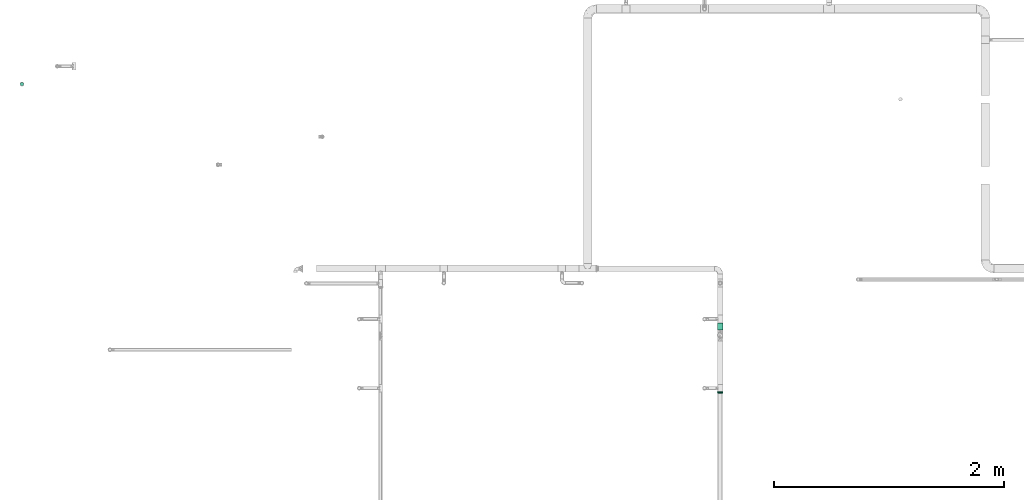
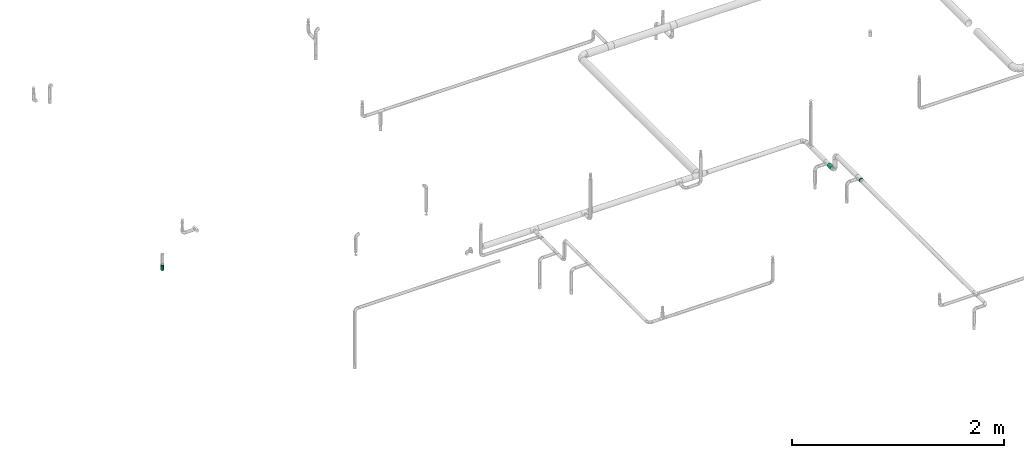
# One storey, part 65 of 157: 2 flow fittings, 1 flow segment, 1 flow terminal.
"""IFC2X3 building model written with IfcOpenShell, lengths in millimetres."""

from ifc_helpers import new_model, entity, si_unit, converted_unit, derived_unit, direction, frame, origin_with_axes, origin_2d_with_axis, place, context, subcontext, project, spatial, hollow_circle, extrude, open_shell, surface_model, source, transform, mapped, type_object, element, save


model = new_model("IFC2X3")

# Units and contexts
model_context = context("Model", 3, precision=0.01, world=frame((0.0, 4.29681676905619e-09, 0.0)), true_north=direction((4.01073788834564e-13, 1.0)))
plan_context = context("Plan", 3, precision=0.01, world=frame((0.0, 4.29681676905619e-09, 0.0)), true_north=direction((4.01073788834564e-13, 1.0)))
body_context = subcontext(model_context, "Body", "Model", "MODEL_VIEW")
ifc_project = project(units=[converted_unit("PLANEANGLEUNIT", "DEGREE", entity("IfcPositiveLengthMeasure", 0.0174532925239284), si_unit("PLANEANGLEUNIT", "RADIAN"), dimensions=[0, 0, 0, 0, 0, 0, 0]), si_unit("AREAUNIT", "SQUARE_METRE"), si_unit("LENGTHUNIT", "METRE", prefix="MILLI"), si_unit("MASSUNIT", "GRAM", prefix="KILO"), si_unit("POWERUNIT", "WATT"), si_unit("PRESSUREUNIT", "PASCAL"), si_unit("FORCEUNIT", "NEWTON", prefix="KILO"), si_unit("ELECTRICCURRENTUNIT", "AMPERE"), si_unit("THERMODYNAMICTEMPERATUREUNIT", "DEGREE_CELSIUS"), si_unit("TIMEUNIT", "SECOND"), si_unit("VOLUMEUNIT", "CUBIC_METRE"), derived_unit("LINEARVELOCITYUNIT", [(si_unit("LENGTHUNIT", "METRE"), 1), (si_unit("TIMEUNIT", "SECOND"), -1)]), derived_unit("VOLUMETRICFLOWRATEUNIT", [(si_unit("VOLUMEUNIT", "CUBIC_METRE"), 1), (si_unit("TIMEUNIT", "SECOND"), -1)]), derived_unit("THERMALTRANSMITTANCEUNIT", [(si_unit("POWERUNIT", "WATT"), 1), (si_unit("THERMODYNAMICTEMPERATUREUNIT", "KELVIN"), -1), (si_unit("AREAUNIT", "SQUARE_METRE"), -1)])], contexts=[model_context, plan_context])

# Site, building, storey
site_placement = place(None, frame((0.0, -4.29681676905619e-09, 0.0), z_axis=(0.0, 0.0, 1.0), x_axis=(1.0, 0.0, 0.0)))
site = spatial("IfcSite", under=ifc_project, at=site_placement, CompositionType="ELEMENT")
building_placement = place(site_placement, frame((0.0, 4.29681676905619e-09, 0.0), z_axis=(0.0, 0.0, 1.0), x_axis=(1.0, 0.0, 0.0)))
building = spatial("IfcBuilding", under=site, at=building_placement, Name="mc-building", CompositionType="ELEMENT")
storey_placement = place(building_placement, frame((0.0, 0.0, 204000.0), z_axis=(0.0, 0.0, 1.0), x_axis=(1.0, 0.0, 0.0)))
storey = spatial("IfcBuildingStorey", under=building, at=storey_placement, Name="Nivå D", CompositionType="ELEMENT", Elevation=204000.0)

# Flow fittings
pipe_fitting_type = type_object("IfcPipeFittingType", Name="magi_pipe_fe_reducer_centric_short_NOR", PredefinedType="TRANSITION")
shared_shape_1 = source(origin_with_axes(), body_context, "Body", "SurfaceModel", [
    surface_model("IfcShellBasedSurfaceModel", [(-2.0, -7.56604, -7.56604), (-2.0, -10.33541, -2.76936), (-2.0, -5.35, -9.26647), (-2.0, 5.35, -9.26647), (-2.0, 10.33541, -2.76936), (-2.0, 7.56604, -7.56604), (12.4, 11.9501, 11.9501), (12.4, 0.0, 16.9), (12.4, 11.9501, -11.9501), (12.4, 16.9, 0.0), (0.0, -10.7, 0.0), (0.0, -5.35, 9.26647), (0.0, -5.35, -9.26647), (0.0, 10.7, 0.0), (12.4, 15.66253, -2.98753), (12.4, 8.96258, -13.18758), (0.0, 6.6875, -6.94985), (12.4, -15.66253, -2.98753), (12.4, -16.9, 0.0), (12.4, 5.97505, -14.42505), (0.0, 5.35, -9.26647), (12.4, 14.42505, -5.97505), (0.0, 8.025, -4.63324), (0.0, 9.3625, -2.31662), (0.0, -9.3625, -2.31662), (0.0, -8.025, -4.63324), (12.4, -14.42505, -5.97505), (12.4, 13.18758, -8.96258), (12.4, -13.18758, -8.96258), (12.4, -11.9501, -11.9501), (0.0, -6.6875, -6.94985), (12.4, -8.96258, -13.18758), (12.4, -5.97505, -14.42505), (12.4, -15.66253, 2.98753), (12.4, -8.96258, 13.18758), (0.0, -6.6875, 6.94985), (12.4, -11.9501, 11.9501), (12.4, 15.66253, 2.98753), (12.4, -5.97505, 14.42505), (12.4, -14.42505, 5.97505), (0.0, -8.025, 4.63324), (0.0, -9.3625, 2.31662), (0.0, 9.3625, 2.31662), (0.0, 8.025, 4.63324), (12.4, 14.42505, 5.97505), (12.4, -13.18758, 8.96258), (12.4, 13.18758, 8.96258), (0.0, 6.6875, 6.94985), (12.4, 8.96258, 13.18758), (0.0, 5.35, 9.26647), (12.4, 5.97505, 14.42505), (14.4, 4.37404, -16.32415), (14.4, 8.45, -14.63583), (14.4, 11.9501, -11.9501), (14.4, -8.45, -14.63583), (14.4, 16.32415, -4.37404), (14.4, 16.32415, 4.37404), (14.4, 14.63583, -8.45), (14.4, 0.0, -16.9), (14.4, -4.37404, -16.32415), (14.4, -11.9501, -11.9501), (14.4, -16.32415, -4.37404), (14.4, -14.63583, -8.45), (14.4, -16.32415, 4.37404), (14.4, 16.9, 0.0), (14.4, 14.63583, 8.45), (14.4, 11.9501, 11.9501), (14.4, 4.37404, 16.32415), (14.4, 8.45, 14.63583), (14.4, 0.0, 16.9), (14.4, -14.63583, 8.45), (14.4, -16.9, 0.0), (14.4, -8.45, 14.63583), (14.4, -11.9501, 11.9501), (14.4, -4.37404, 16.32415), (12.4, 4.37404, 16.32415), (12.4, -14.63583, 8.45), (12.4, 16.32415, 4.37404), (12.4, 8.45, 14.63583), (12.4, 14.63583, 8.45), (12.4, -8.45, 14.63583), (12.4, -4.37404, 16.32415), (12.4, -16.32415, 4.37404), (12.4, -16.32415, -4.37404), (12.4, -8.45, -14.63583), (12.4, 16.32415, -4.37404), (12.4, 14.63583, -8.45), (12.4, 8.45, -14.63583), (12.4, 4.37404, -16.32415), (12.4, 0.0, -16.9), (12.4, -14.63583, -8.45), (12.4, -4.37404, -16.32415), (-2.0, 2.76936, 10.33541), (-2.0, 0.0, 10.7), (-2.0, 5.35, 9.26647), (-2.0, 7.56604, 7.56604), (-2.0, 9.26647, 5.35), (-2.0, 10.33541, 2.76936), (-2.0, -10.33541, 2.76936), (-2.0, -2.76936, 10.33541), (-2.0, -7.56604, 7.56604), (-2.0, -5.35, 9.26647), (-2.0, -9.26647, 5.35), (-2.0, -10.7, 0.0), (-2.0, 9.26647, -5.35), (-2.0, 2.76936, -10.33541), (-2.0, -9.26647, -5.35), (-2.0, 0.0, -10.7), (-2.0, -2.76936, -10.33541), (-2.0, 10.7, 0.0), (0.0, 0.0, -10.7), (0.0, 2.76936, -10.33541), (0.0, 10.33541, -2.76936), (0.0, 7.56604, -7.56604), (0.0, -10.33541, -2.76936), (0.0, 9.26647, -5.35), (0.0, 0.0, 10.7), (0.0, -2.76936, -10.33541), (0.0, -7.56604, -7.56604), (0.0, -9.26647, -5.35), (0.0, 10.33541, 2.76936), (0.0, 9.26647, 5.35), (0.0, 7.56604, 7.56604), (0.0, 2.76936, 10.33541), (0.0, -7.56604, 7.56604), (0.0, -10.33541, 2.76936), (0.0, -9.26647, 5.35), (0.0, -2.76936, 10.33541), (0.0, 2.675, -9.26647), (0.0, -2.675, -9.26647), (12.4, 2.98753, -15.66253), (0.0, 0.0, -9.26647), (12.4, -2.98753, -15.66253), (0.0, -2.675, 9.26647), (0.0, 2.675, 9.26647), (12.4, -2.98753, 15.66253), (0.0, 0.0, 9.26647), (12.4, 2.98753, 15.66253)], [open_shell([[[0, 1, 2]], [[3, 4, 5]], [[6, 7, 8]], [[8, 9, 6]], [[10, 11, 12]], [[13, 9, 14]], [[15, 16, 8]], [[17, 18, 10]], [[15, 19, 20]], [[21, 22, 23]], [[24, 25, 26]], [[22, 21, 27]], [[28, 26, 25]], [[29, 30, 31]], [[12, 32, 31]], [[10, 18, 33]], [[34, 35, 36]], [[37, 9, 13]], [[34, 38, 11]], [[39, 40, 41]], [[42, 43, 44]], [[40, 39, 45]], [[46, 44, 43]], [[6, 47, 48]], [[49, 50, 48]], [[51, 52, 53]], [[54, 51, 53]], [[53, 55, 56]], [[55, 53, 57]], [[53, 56, 54]], [[58, 54, 59]], [[58, 51, 54]], [[60, 61, 62]], [[61, 60, 54]], [[54, 63, 61]], [[56, 55, 64]], [[56, 65, 66]], [[56, 66, 67]], [[67, 63, 54]], [[67, 66, 68]], [[63, 67, 69]], [[69, 70, 63]], [[71, 61, 63]], [[70, 72, 73]], [[70, 69, 72]], [[72, 69, 74]], [[54, 56, 67]], [[75, 76, 7]], [[77, 75, 78]], [[6, 79, 77]], [[6, 77, 78]], [[76, 75, 77]], [[80, 76, 36]], [[80, 81, 7]], [[7, 76, 80]], [[82, 76, 77]], [[82, 83, 18]], [[82, 77, 84]], [[77, 85, 8]], [[8, 85, 86]], [[8, 87, 88]], [[84, 77, 8]], [[88, 89, 8]], [[83, 29, 90]], [[29, 83, 84]], [[84, 89, 91]], [[83, 82, 84]], [[8, 89, 84]], [[85, 77, 9]], [[83, 61, 18]], [[90, 62, 83]], [[54, 29, 84]], [[90, 29, 60]], [[59, 84, 91]], [[83, 62, 61]], [[61, 71, 18]], [[59, 54, 84]], [[60, 29, 54]], [[60, 62, 90]], [[58, 59, 91]], [[91, 89, 58]], [[88, 51, 89]], [[87, 52, 88]], [[57, 8, 86]], [[87, 8, 53]], [[55, 86, 85]], [[87, 53, 52]], [[52, 51, 88]], [[64, 55, 85]], [[57, 86, 55]], [[57, 53, 8]], [[9, 64, 85]], [[89, 51, 58]], [[77, 56, 9]], [[79, 65, 77]], [[68, 6, 78]], [[79, 6, 66]], [[67, 78, 75]], [[77, 65, 56]], [[56, 64, 9]], [[67, 68, 78]], [[66, 6, 68]], [[66, 65, 79]], [[69, 67, 75]], [[75, 7, 69]], [[81, 74, 7]], [[80, 72, 81]], [[70, 36, 76]], [[80, 36, 73]], [[63, 76, 82]], [[80, 73, 72]], [[72, 74, 81]], [[71, 63, 82]], [[70, 76, 63]], [[70, 73, 36]], [[18, 71, 82]], [[7, 74, 69]], [[92, 1, 93]], [[94, 1, 92]], [[95, 96, 97]], [[95, 97, 94]], [[98, 93, 1]], [[99, 100, 101]], [[99, 93, 100]], [[100, 98, 102]], [[93, 98, 100]], [[98, 1, 103]], [[94, 97, 1]], [[1, 97, 4]], [[5, 4, 104]], [[4, 3, 1]], [[105, 1, 3]], [[1, 0, 106]], [[2, 107, 108]], [[2, 1, 105]], [[105, 107, 2]], [[4, 97, 109]], [[20, 110, 111]], [[112, 20, 113]], [[114, 20, 112]], [[112, 113, 115]], [[116, 114, 112]], [[110, 12, 117]], [[110, 20, 12]], [[118, 114, 119]], [[114, 118, 12]], [[20, 114, 12]], [[112, 13, 120]], [[120, 121, 122]], [[120, 122, 123]], [[116, 112, 123]], [[123, 122, 49]], [[116, 124, 114]], [[125, 124, 126]], [[10, 114, 125]], [[124, 127, 11]], [[125, 114, 124]], [[127, 124, 116]], [[123, 112, 120]], [[1, 114, 103]], [[106, 119, 1]], [[12, 0, 2]], [[106, 0, 118]], [[117, 2, 108]], [[1, 119, 114]], [[114, 10, 103]], [[117, 12, 2]], [[118, 0, 12]], [[118, 119, 106]], [[110, 117, 108]], [[108, 107, 110]], [[105, 111, 107]], [[3, 20, 105]], [[115, 5, 104]], [[3, 5, 113]], [[112, 104, 4]], [[3, 113, 20]], [[20, 111, 105]], [[13, 112, 4]], [[115, 104, 112]], [[115, 113, 5]], [[109, 13, 4]], [[107, 111, 110]], [[97, 120, 109]], [[96, 121, 97]], [[49, 95, 94]], [[96, 95, 122]], [[123, 94, 92]], [[97, 121, 120]], [[120, 13, 109]], [[123, 49, 94]], [[122, 95, 49]], [[122, 121, 96]], [[116, 123, 92]], [[92, 93, 116]], [[99, 127, 93]], [[101, 11, 99]], [[126, 100, 102]], [[101, 100, 124]], [[125, 102, 98]], [[101, 124, 11]], [[11, 127, 99]], [[10, 125, 98]], [[126, 102, 125]], [[126, 124, 100]], [[103, 10, 98]], [[93, 127, 116]], [[18, 7, 36]], [[18, 29, 8]], [[89, 8, 29]], [[18, 8, 7]], [[13, 11, 49]], [[13, 20, 12]], [[13, 12, 11]], [[24, 26, 17]], [[10, 24, 17]], [[16, 15, 20]], [[30, 12, 31]], [[23, 14, 21]], [[19, 128, 20]], [[27, 8, 16]], [[32, 12, 129]], [[30, 28, 25]], [[130, 131, 128]], [[129, 132, 32]], [[16, 22, 27]], [[13, 14, 23]], [[128, 19, 130]], [[130, 89, 131]], [[131, 132, 129]], [[89, 132, 131]], [[28, 30, 29]], [[42, 44, 37]], [[13, 42, 37]], [[35, 34, 11]], [[47, 49, 48]], [[41, 33, 39]], [[38, 133, 11]], [[45, 36, 35]], [[50, 49, 134]], [[47, 46, 43]], [[135, 136, 133]], [[134, 137, 50]], [[35, 40, 45]], [[10, 33, 41]], [[133, 38, 135]], [[135, 7, 136]], [[136, 137, 134]], [[7, 137, 136]], [[46, 47, 6]]])]),
])
flow_fitting_1_placement = place(storey_placement, frame((515569.8271, 415641.97188, 2396.95199999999), z_axis=(0.0, -1.0, 0.0), x_axis=(0.0, 0.0, 1.0)))
element("IfcFlowFitting", 1, at=flow_fitting_1_placement, inside=storey, type_object=pipe_fitting_type, Name="magi_pipe_fe_reducer_centric_short_NOR", context=body_context, shape_type="MappedRepresentation", body=[
    mapped(shared_shape_1, transform((0.0, 0.0, 0.0), scale=1.0)),
])
shared_shape_2 = source(origin_with_axes(), body_context, "Body", "SurfaceModel", [
    surface_model("IfcShellBasedSurfaceModel", [(8.0, 10.6, -18.35974), (8.0, 0.0, -21.2), (8.0, 5.48696, -20.47763), (8.0, 20.47763, -5.48696), (8.0, 14.99066, -14.99066), (8.0, -21.2, 0.0), (8.0, -14.99066, -14.99066), (8.0, 18.35974, -10.6), (8.0, -10.6, -18.35974), (8.0, -5.48696, -20.47763), (8.0, -18.35974, -10.6), (8.0, -20.47763, -5.48696), (8.0, -18.35974, 10.6), (8.0, 21.2, 0.0), (8.0, 20.47763, 5.48696), (8.0, 18.35974, 10.6), (8.0, 14.99066, 14.99066), (8.0, 0.0, 21.2), (8.0, 10.6, 18.35974), (8.0, 5.48696, 20.47763), (8.0, -14.99066, 14.99066), (8.0, -20.47763, 5.48696), (8.0, -5.48696, 20.47763), (8.0, -10.6, 18.35974), (6.0, 0.0, 21.2), (6.0, 5.48696, 20.47763), (6.0, 10.6, 18.35974), (6.0, 14.99066, 14.99066), (6.0, 18.35974, 10.6), (6.0, 20.47763, 5.48696), (6.0, -21.2, 0.0), (6.0, -14.99066, -14.99066), (6.0, -5.48696, 20.47763), (6.0, -14.99066, 14.99066), (6.0, -10.6, 18.35974), (6.0, -18.35974, 10.6), (6.0, -20.47763, 5.48696), (6.0, 20.47763, -5.48696), (6.0, 10.6, -18.35974), (6.0, 14.99066, -14.99066), (6.0, 18.35974, -10.6), (6.0, 5.48696, -20.47763), (6.0, 0.0, -21.2), (6.0, -18.35974, -10.6), (6.0, -20.47763, -5.48696), (6.0, -10.6, -18.35974), (6.0, -5.48696, -20.47763), (6.0, 21.2, 0.0), (-2.0, 0.0, 24.2), (-2.0, 6.26342, 23.37541), (-2.0, 12.1, 20.95781), (-2.0, 17.11198, 17.11198), (-2.0, 24.2, 0.0), (-2.0, 20.95781, 12.1), (-2.0, -23.37541, 6.26342), (-2.0, -17.11198, -17.11198), (-2.0, -6.26342, 23.37541), (-2.0, -17.11198, 17.11198), (-2.0, -12.1, 20.95781), (-2.0, -20.95781, 12.1), (-2.0, -24.2, 0.0), (-2.0, 23.37541, 6.26342), (-2.0, 23.37541, -6.26342), (-2.0, 6.26342, -23.37541), (-2.0, 17.11198, -17.11198), (-2.0, 20.95781, -12.1), (-2.0, 12.1, -20.95781), (-2.0, -23.37541, -6.26342), (-2.0, -20.95781, -12.1), (-2.0, -6.26342, -23.37541), (-2.0, -12.1, -20.95781), (-2.0, 0.0, -24.2), (0.0, 24.2, 0.0), (0.0, 6.26342, -23.37541), (0.0, 12.1, -20.95781), (0.0, 23.37541, -6.26342), (0.0, 17.11198, -17.11198), (0.0, 20.95781, -12.1), (0.0, -24.2, 0.0), (0.0, -12.1, -20.95781), (0.0, -6.26342, -23.37541), (0.0, 0.0, -24.2), (0.0, -17.11198, -17.11198), (0.0, -23.37541, -6.26342), (0.0, -20.95781, -12.1), (0.0, 20.95781, 12.1), (0.0, 17.11198, 17.11198), (0.0, 12.1, 20.95781), (0.0, 6.26342, 23.37541), (0.0, 0.0, 24.2), (0.0, -23.37541, 6.26342), (0.0, -17.11198, 17.11198), (0.0, -20.95781, 12.1), (0.0, -6.26342, 23.37541), (0.0, -12.1, 20.95781), (0.0, 23.37541, 6.26342), (6.0, -6.55116, 20.1624), (6.0, -17.15116, 12.46105), (6.0, 17.15116, 12.46105), (6.0, 6.55116, 20.1624), (6.0, -6.55116, -20.1624), (6.0, -17.15116, -12.46105), (6.0, 6.55116, -20.1624), (6.0, 17.15116, -12.46105), (0.0, 7.47821, 23.01557), (0.0, 19.57821, 14.2244), (0.0, -7.47821, 23.01557), (0.0, -19.57821, 14.2244), (0.0, 7.47821, -23.01557), (0.0, 19.57821, -14.2244), (0.0, -7.47821, -23.01557), (0.0, -19.57821, -14.2244), (6.0, 11.85116, -16.31172), (0.0, 13.52821, -18.61999), (0.0, 21.8891, -7.1122), (6.0, 19.17558, -6.23052), (0.0, -22.51537, -5.18476), (6.0, 0.0, -20.1624), (0.0, 0.0, -23.01557), (6.0, -19.17558, -6.23052), (0.0, -13.52821, -18.61999), (6.0, -11.85116, -16.31172), (0.0, -21.04679, -9.70458), (6.0, -11.85116, 16.31172), (0.0, -13.52821, 18.61999), (0.0, -21.8891, 7.1122), (6.0, -19.17558, 6.23052), (0.0, 22.51537, 5.18476), (6.0, 0.0, 20.1624), (0.0, 0.0, 23.01557), (6.0, 19.17558, 6.23052), (0.0, 13.52821, 18.61999), (6.0, 11.85116, 16.31172), (0.0, 21.04679, 9.70458)], [open_shell([[[0, 1, 2]], [[3, 0, 4]], [[5, 6, 0]], [[3, 4, 7]], [[3, 5, 0]], [[1, 8, 9]], [[1, 0, 8]], [[10, 5, 11]], [[8, 0, 6]], [[10, 6, 5]], [[12, 3, 13]], [[14, 15, 16]], [[14, 16, 17]], [[18, 19, 17]], [[18, 17, 16]], [[14, 17, 20]], [[5, 12, 21]], [[3, 12, 5]], [[20, 22, 23]], [[12, 14, 20]], [[17, 22, 20]], [[12, 13, 14]], [[24, 25, 26]], [[24, 26, 27]], [[27, 28, 29]], [[27, 29, 24]], [[30, 24, 31]], [[32, 33, 34]], [[32, 24, 33]], [[35, 30, 36]], [[33, 24, 35]], [[24, 30, 35]], [[24, 29, 31]], [[29, 37, 38]], [[39, 37, 40]], [[31, 29, 38]], [[38, 37, 39]], [[41, 42, 38]], [[30, 43, 44]], [[31, 43, 30]], [[45, 42, 46]], [[45, 31, 38]], [[42, 45, 38]], [[37, 29, 47]], [[44, 11, 30]], [[43, 10, 44]], [[8, 31, 45]], [[43, 31, 6]], [[9, 45, 46]], [[44, 10, 11]], [[11, 5, 30]], [[9, 8, 45]], [[6, 31, 8]], [[6, 10, 43]], [[1, 9, 46]], [[46, 42, 1]], [[41, 2, 42]], [[38, 0, 41]], [[7, 39, 40]], [[38, 39, 4]], [[3, 40, 37]], [[38, 4, 0]], [[0, 2, 41]], [[13, 3, 37]], [[7, 40, 3]], [[7, 4, 39]], [[47, 13, 37]], [[42, 2, 1]], [[29, 14, 47]], [[28, 15, 29]], [[18, 27, 26]], [[28, 27, 16]], [[19, 26, 25]], [[29, 15, 14]], [[14, 13, 47]], [[19, 18, 26]], [[16, 27, 18]], [[16, 15, 28]], [[17, 19, 25]], [[25, 24, 17]], [[32, 22, 24]], [[34, 23, 32]], [[12, 33, 35]], [[34, 33, 20]], [[21, 35, 36]], [[34, 20, 23]], [[23, 22, 32]], [[5, 21, 36]], [[12, 35, 21]], [[12, 20, 33]], [[30, 5, 36]], [[24, 22, 17]], [[48, 49, 50]], [[48, 50, 51]], [[52, 51, 53]], [[54, 48, 55]], [[48, 51, 55]], [[56, 57, 58]], [[56, 48, 57]], [[57, 54, 59]], [[48, 54, 57]], [[54, 55, 60]], [[52, 53, 61]], [[51, 62, 63]], [[64, 62, 65]], [[66, 63, 62]], [[66, 62, 64]], [[63, 55, 51]], [[67, 55, 68]], [[60, 55, 67]], [[63, 69, 70]], [[70, 55, 63]], [[69, 63, 71]], [[62, 51, 52]], [[72, 73, 74]], [[75, 74, 76]], [[75, 72, 74]], [[75, 76, 77]], [[73, 78, 79]], [[73, 80, 81]], [[73, 79, 80]], [[82, 83, 84]], [[82, 79, 78]], [[82, 78, 83]], [[73, 72, 85]], [[85, 86, 73]], [[73, 86, 78]], [[87, 88, 89]], [[87, 89, 86]], [[78, 86, 89]], [[90, 91, 92]], [[93, 90, 78]], [[91, 93, 94]], [[93, 91, 90]], [[78, 89, 93]], [[72, 95, 85]], [[67, 83, 60]], [[68, 84, 67]], [[79, 55, 70]], [[68, 55, 82]], [[80, 70, 69]], [[67, 84, 83]], [[83, 78, 60]], [[80, 79, 70]], [[82, 55, 79]], [[82, 84, 68]], [[81, 80, 69]], [[69, 71, 81]], [[63, 73, 71]], [[66, 74, 63]], [[77, 64, 65]], [[66, 64, 76]], [[75, 65, 62]], [[66, 76, 74]], [[74, 73, 63]], [[72, 75, 62]], [[77, 65, 75]], [[77, 76, 64]], [[52, 72, 62]], [[71, 73, 81]], [[61, 95, 52]], [[53, 85, 61]], [[87, 51, 50]], [[53, 51, 86]], [[88, 50, 49]], [[61, 85, 95]], [[95, 72, 52]], [[88, 87, 50]], [[86, 51, 87]], [[86, 85, 53]], [[89, 88, 49]], [[49, 48, 89]], [[56, 93, 48]], [[58, 94, 56]], [[92, 57, 59]], [[58, 57, 91]], [[90, 59, 54]], [[58, 91, 94]], [[94, 93, 56]], [[78, 90, 54]], [[92, 59, 90]], [[92, 91, 57]], [[60, 78, 54]], [[48, 93, 89]], [[96, 97, 98]], [[96, 98, 99]], [[98, 97, 47]], [[97, 100, 47]], [[97, 101, 100]], [[102, 103, 47]], [[47, 100, 102]], [[101, 97, 30]], [[104, 105, 106]], [[105, 107, 106]], [[107, 105, 78]], [[105, 108, 78]], [[109, 108, 105]], [[78, 110, 111]], [[78, 108, 110]], [[105, 72, 109]], [[109, 103, 112]], [[102, 113, 112]], [[113, 102, 108]], [[114, 115, 103]], [[47, 115, 72]], [[113, 109, 112]], [[30, 78, 116]], [[108, 117, 118]], [[118, 117, 100]], [[100, 110, 118]], [[103, 109, 114]], [[72, 115, 114]], [[116, 119, 30]], [[120, 121, 101]], [[100, 121, 110]], [[119, 122, 101]], [[110, 121, 120]], [[101, 111, 120]], [[119, 116, 122]], [[102, 117, 108]], [[122, 111, 101]], [[107, 97, 123]], [[96, 124, 123]], [[124, 96, 106]], [[125, 126, 97]], [[30, 126, 78]], [[124, 107, 123]], [[47, 72, 127]], [[106, 128, 129]], [[129, 128, 99]], [[99, 104, 129]], [[97, 107, 125]], [[78, 126, 125]], [[127, 130, 47]], [[131, 132, 98]], [[99, 132, 104]], [[130, 133, 98]], [[104, 132, 131]], [[98, 105, 131]], [[130, 127, 133]], [[96, 128, 106]], [[133, 105, 98]]])]),
])
flow_fitting_2_placement = place(storey_placement, frame((521635.35, 412966.2, 2880.0), z_axis=(0.0, 0.0, 1.0), x_axis=(0.0, -1.0, 0.0)))
element("IfcFlowFitting", 2, at=flow_fitting_2_placement, inside=storey, type_object=pipe_fitting_type, Name="magi_pipe_fe_reducer_centric_short_NOR", context=body_context, shape_type="MappedRepresentation", body=[
    mapped(shared_shape_2, transform((0.0, 0.0, 0.0), scale=1.0)),
])

# Flow segment
pipe_segment_type = type_object("IfcPipeSegmentType", Name="Stålrør normaltykke", PredefinedType="RIGIDSEGMENT")
shared_shape_3 = source(origin_with_axes(), body_context, "Body", "SweptSolid", [
    extrude(hollow_circle(Radius=24.1, WallThickness=2.0, at=origin_2d_with_axis()), frame((0.0, 0.0, 0.0), z_axis=(1.0, 0.0, 0.0), x_axis=(0.0, 1.0, 0.0)), (0.0, 0.0, 1.0), 58.4),
])
flow_segment_placement = place(storey_placement, frame((521635.35, 413566.20018, 2690.0), z_axis=(0.0, 0.0, 1.0), x_axis=(0.0, -1.0, 0.0)))
element("IfcFlowSegment", 3, at=flow_segment_placement, inside=storey, type_object=pipe_segment_type, Name="Stålrør normaltykke", context=body_context, shape_type="MappedRepresentation", body=[
    mapped(shared_shape_3, transform((0.0, 0.0, 0.0), scale=1.0)),
])

# Flow terminal
fire_suppression_terminal_type = type_object("IfcFireSuppressionTerminalType", Name="SP-15-K80-68DGR-STD-HIMLING", PredefinedType="NOTDEFINED")
shared_shape_4 = source(origin_with_axes(), body_context, "Body", "SurfaceModel", [
    surface_model("IfcShellBasedSurfaceModel", [(4.1411, -15.45481, 53.0), (8.0, -13.85641, 53.0), (11.31371, -11.31371, 53.0), (-8.0, -13.85641, 53.0), (15.45481, -4.1411, 53.0), (16.0, 0.0, 53.0), (13.85641, -8.0, 53.0), (0.0, -16.0, 53.0), (-4.1411, -15.45481, 53.0), (-13.85641, -8.0, 53.0), (-11.31371, -11.31371, 53.0), (-15.45481, -4.1411, 53.0), (15.45481, 4.1411, 53.0), (13.85641, 8.0, 53.0), (11.31371, 11.31371, 53.0), (-4.1411, 15.45481, 53.0), (8.0, 13.85641, 53.0), (4.1411, 15.45481, 53.0), (0.0, 16.0, 53.0), (-13.85641, 8.0, 53.0), (-15.45481, 4.1411, 53.0), (-16.0, 0.0, 53.0), (-11.31371, 11.31371, 53.0), (-8.0, 13.85641, 53.0), (0.0, 16.0, 0.0), (4.1411, 15.45481, 0.0), (8.0, 13.85641, 0.0), (-4.1411, 15.45481, 0.0), (11.31371, 11.31371, 0.0), (13.85641, 8.0, 0.0), (15.45481, 4.1411, 0.0), (-15.45481, -4.1411, 0.0), (-11.31371, 11.31371, 0.0), (-8.0, 13.85641, 0.0), (-13.85641, 8.0, 0.0), (-15.45481, 4.1411, 0.0), (-16.0, 0.0, 0.0), (4.1411, -15.45481, 0.0), (16.0, 0.0, 0.0), (15.45481, -4.1411, 0.0), (13.85641, -8.0, 0.0), (11.31371, -11.31371, 0.0), (8.0, -13.85641, 0.0), (-8.0, -13.85641, 0.0), (-13.85641, -8.0, 0.0), (-11.31371, -11.31371, 0.0), (0.0, -16.0, 0.0), (-4.1411, -15.45481, 0.0)], [open_shell([[[0, 1, 2]], [[3, 0, 2]], [[4, 5, 2]], [[4, 2, 6]], [[3, 2, 5]], [[7, 3, 8]], [[7, 0, 3]], [[3, 9, 10]], [[9, 3, 11]], [[5, 11, 3]], [[5, 12, 11]], [[12, 13, 14]], [[15, 12, 14]], [[16, 17, 18]], [[14, 16, 15]], [[18, 15, 16]], [[11, 19, 20]], [[21, 11, 20]], [[22, 15, 23]], [[15, 22, 19]], [[19, 11, 15]], [[11, 12, 15]], [[24, 25, 26]], [[27, 24, 26]], [[28, 29, 30]], [[27, 26, 28]], [[27, 28, 31]], [[27, 32, 33]], [[32, 27, 34]], [[34, 31, 35]], [[31, 34, 27]], [[35, 31, 36]], [[28, 30, 31]], [[37, 38, 39]], [[37, 39, 40]], [[41, 42, 37]], [[41, 37, 40]], [[38, 37, 43]], [[44, 43, 45]], [[43, 44, 31]], [[43, 46, 47]], [[43, 31, 38]], [[37, 46, 43]], [[38, 31, 30]], [[11, 31, 44]], [[45, 9, 44]], [[3, 43, 47]], [[45, 43, 10]], [[8, 47, 46]], [[31, 21, 36]], [[31, 11, 21]], [[44, 9, 11]], [[45, 10, 9]], [[3, 10, 43]], [[47, 8, 3]], [[46, 7, 8]], [[0, 37, 42]], [[41, 1, 42]], [[6, 40, 39]], [[41, 40, 2]], [[4, 39, 38]], [[37, 0, 7]], [[42, 1, 0]], [[41, 2, 1]], [[40, 6, 2]], [[4, 6, 39]], [[38, 5, 4]], [[37, 7, 46]], [[12, 38, 30]], [[13, 30, 29]], [[16, 26, 25]], [[17, 25, 24]], [[30, 13, 12]], [[12, 5, 38]], [[28, 14, 13]], [[28, 26, 14]], [[14, 26, 16]], [[25, 17, 16]], [[28, 13, 29]], [[24, 18, 17]], [[15, 27, 33]], [[32, 23, 33]], [[19, 34, 35]], [[32, 34, 22]], [[20, 35, 36]], [[27, 15, 18]], [[33, 23, 15]], [[32, 22, 23]], [[34, 19, 22]], [[20, 19, 35]], [[36, 21, 20]], [[27, 18, 24]]])]),
])
flow_terminal_placement = place(storey_placement, frame((515569.8271, 415641.97188, 2400.0), z_axis=(0.0, 0.0, -1.0), x_axis=(1.0, 0.0, 0.0)))
element("IfcFlowTerminal", 4, at=flow_terminal_placement, inside=storey, type_object=fire_suppression_terminal_type, Name="SP-15-K80-68DGR-STD-HIMLING", context=body_context, shape_type="MappedRepresentation", body=[
    mapped(shared_shape_4, transform((0.0, 0.0, 0.0), scale=1.0)),
])

save(model, "model.ifc")
